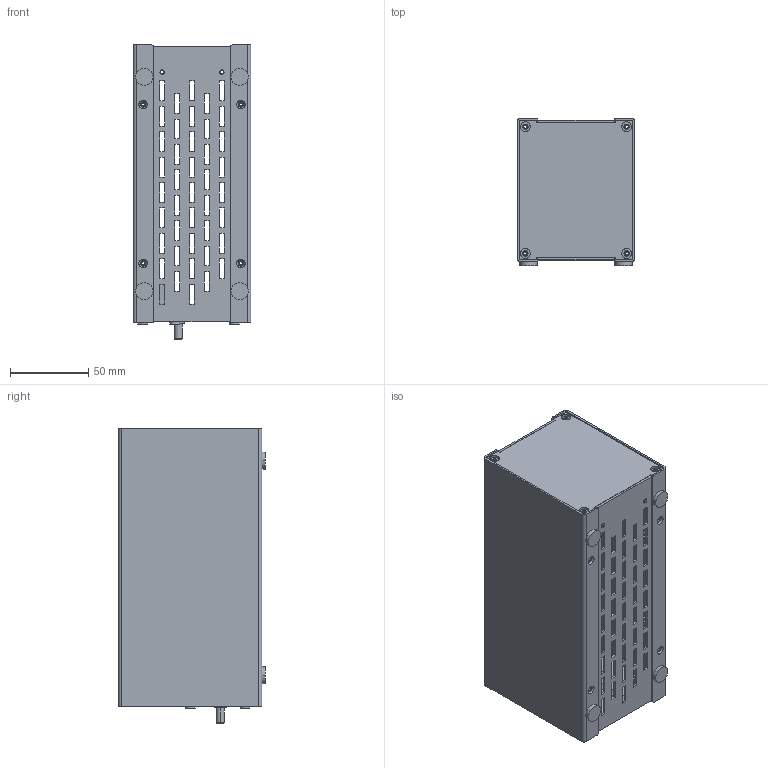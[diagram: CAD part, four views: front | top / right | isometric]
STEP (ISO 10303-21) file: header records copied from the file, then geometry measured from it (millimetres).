
FILE_DESCRIPTION((''),'2;1');
FILE_NAME('ASM_SIM_MODULE_DBL_WIDE_ASM','2022-05-16T09:48:45',('gaw'),(''),'CREO PARAMETRIC BY PTC INC, 2021164','CREO PARAMETRIC BY PTC INC, 2021164','');
FILE_SCHEMA(('CONFIG_CONTROL_DESIGN'));
Length unit declared in the file: inch
Products named in the file (9): COVER_MODULE_SKIN; BRACKET_TOP_BOTTOM_DBL_WIDE; PANEL_FRONT_MODULE_DBL_WIDE; PANEL_REAR_MODULE_DBL_WIDE; CLS-440-3; PEM_BS-832-2; PANEL_REAR_MODULE_DBL_WIDE_ASM; FOOT_RUBBER; ASM_SIM_MODULE_DBL_WIDE_ASM
Assembly tree (15 placements, depth 3):
  ASM_SIM_MODULE_DBL_WIDE_ASM
    COVER_MODULE_SKIN  x2
    BRACKET_TOP_BOTTOM_DBL_WIDE  x2
    PANEL_FRONT_MODULE_DBL_WIDE
    PANEL_REAR_MODULE_DBL_WIDE_ASM
      PANEL_REAR_MODULE_DBL_WIDE
      CLS-440-3  x3
      PEM_BS-832-2
    FOOT_RUBBER  x4
Bounding box: 75.18 x 93.88 x 188.09 mm (x, y, z)
Volume: 110414 mm3; surface area: 160755.2 mm2
Topology: 14 solids, 46 shells, 1104 faces, 3092 edges, 2054 vertices
Faces by surface type: plane 638, cylinder 428, cone 30, bspline 8
Entity records: 20469 total; most frequent: CARTESIAN_POINT 3596, DIRECTION 3524, ORIENTED_EDGE 3364, EDGE_CURVE 1714, VECTOR 1178, LINE 1178, AXIS2_PLACEMENT_3D 1173, VERTEX_POINT 1138
